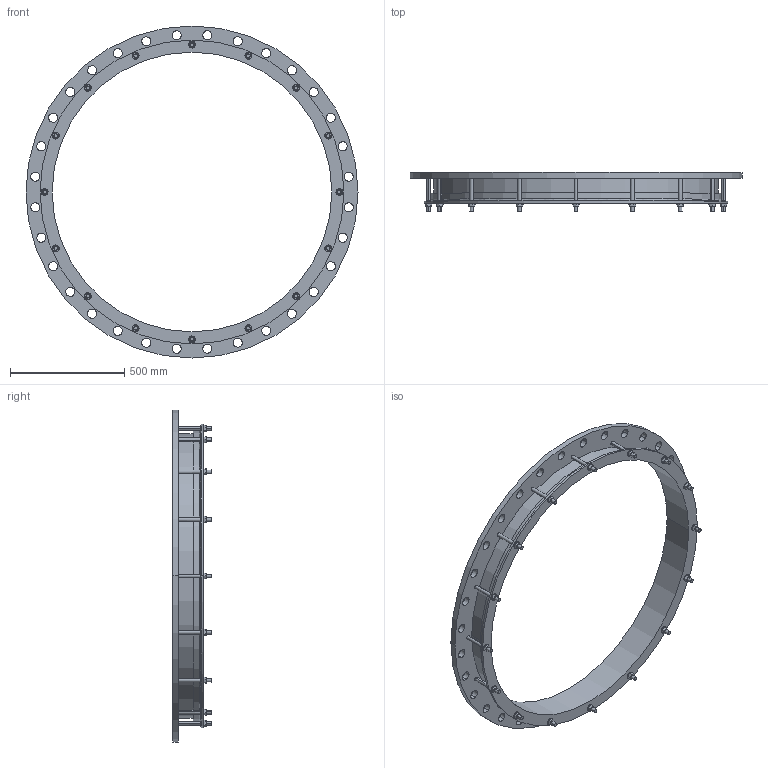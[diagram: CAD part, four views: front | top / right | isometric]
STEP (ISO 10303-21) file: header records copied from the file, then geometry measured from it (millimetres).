
FILE_DESCRIPTION((''),'2;1');
FILE_NAME('1222X1200PN10','2019-01-17T',('mfairey'),('Glynwed Pipe Systems'),'CREO PARAMETRIC BY PTC INC, 2016130','CREO PARAMETRIC BY PTC INC, 2016130','');
FILE_SCHEMA(('CONFIG_CONTROL_DESIGN'));
Length unit declared in the file: millimetre
Products named in the file (1): 1222X1200PN10
Bounding box: 1455 x 169 x 1455 mm (x, y, z)
Volume: 19729712.1 mm3; surface area: 2475163 mm2
Topology: 1 solids, 1 shells, 322 faces, 854 edges, 568 vertices
Faces by surface type: cylinder 168, plane 148, cone 4, torus 2
Entity records: 11428 total; most frequent: CARTESIAN_POINT 2982, DIRECTION 1756, ORIENTED_EDGE 1708, EDGE_CURVE 854, AXIS2_PLACEMENT_3D 648, VERTEX_POINT 568, VECTOR 460, LINE 460
